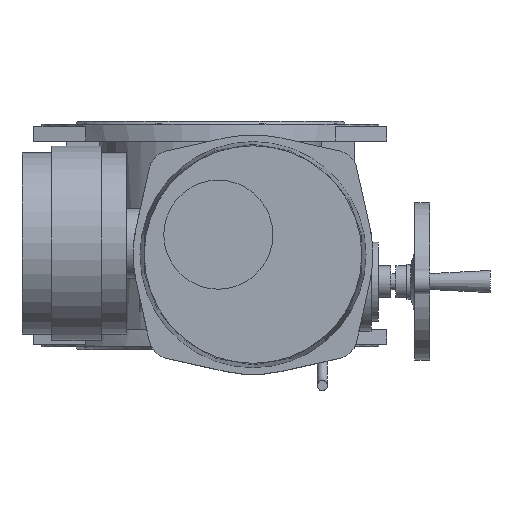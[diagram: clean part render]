
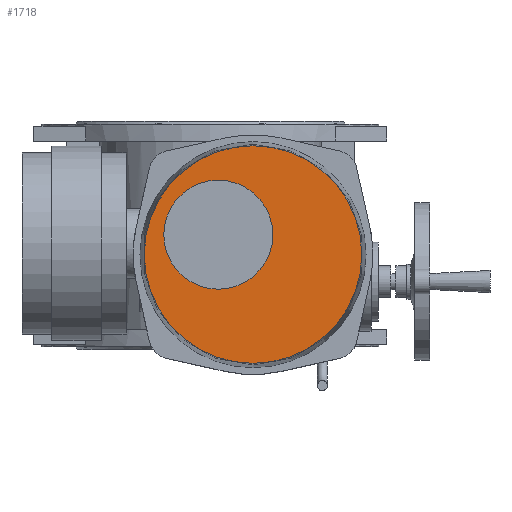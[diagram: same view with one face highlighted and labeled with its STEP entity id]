
A CAD part, top view. The second image highlights one B-rep face of the part: STEP entity #1718.
In plain terms, the highlighted planar face has unit normal (0, 0, 1).
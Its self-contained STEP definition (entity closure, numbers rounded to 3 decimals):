
#1718=ADVANCED_FACE('',(#3657,#3659),#3661,.T.);
#3657=FACE_BOUND('',#3658,.T.);
#3658=EDGE_LOOP('',(#5009));
#3659=FACE_BOUND('',#3660,.T.);
#3660=EDGE_LOOP('',(#5010));
#3661=PLANE('',#3662);
#3662=AXIS2_PLACEMENT_3D('',#3663,#3664,#3665);
#3663=CARTESIAN_POINT('',(43.,-20.,484.));
#3664=DIRECTION('',(0.,0.,1.));
#3665=DIRECTION('',(0.,1.,0.));
#5009=ORIENTED_EDGE('',*,*,#5646,.T.);
#5010=ORIENTED_EDGE('',*,*,#5670,.F.);
#5646=EDGE_CURVE('',#6562,#6562,#6563,.T.);
#5670=EDGE_CURVE('',#6594,#6594,#6595,.T.);
#6562=VERTEX_POINT('',#11114);
#6563=CIRCLE('',#11115,109.703);
#6594=VERTEX_POINT('',#11218);
#6595=CIRCLE('',#11219,55.);
#11114=CARTESIAN_POINT('',(43.,89.703,484.));
#11115=AXIS2_PLACEMENT_3D('',#11116,#11117,#11118);
#11116=CARTESIAN_POINT('',(43.,-20.,484.));
#11117=DIRECTION('',(0.,0.,1.));
#11118=DIRECTION('',(0.,1.,0.));
#11218=CARTESIAN_POINT('',(8.,55.,484.));
#11219=AXIS2_PLACEMENT_3D('',#11220,#11221,#11222);
#11220=CARTESIAN_POINT('',(8.,0.,484.));
#11221=DIRECTION('',(0.,0.,1.));
#11222=DIRECTION('',(0.,1.,0.));
